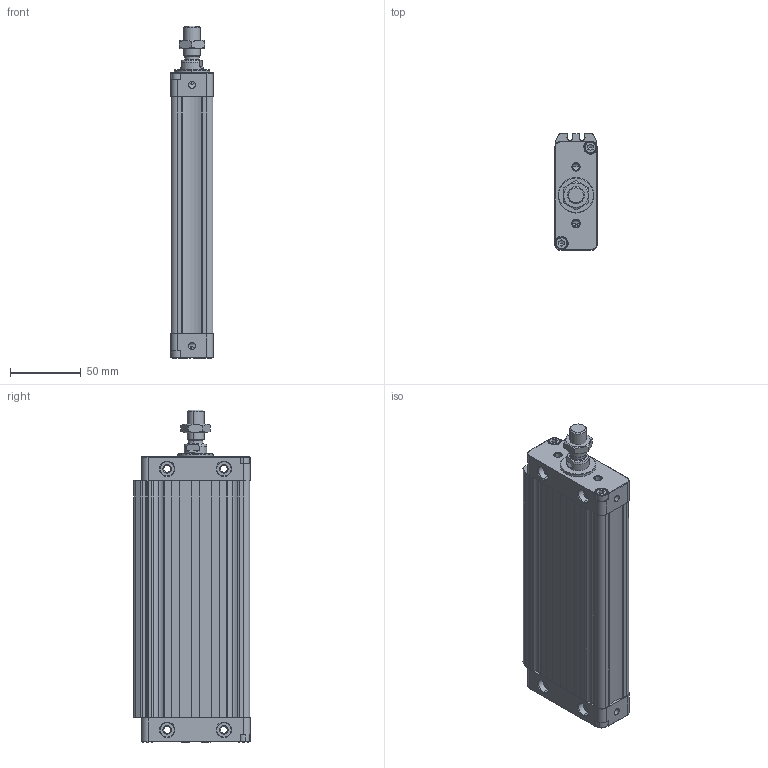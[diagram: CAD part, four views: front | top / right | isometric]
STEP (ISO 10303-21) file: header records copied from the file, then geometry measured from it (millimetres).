
FILE_DESCRIPTION (( 'STEP AP214' ), '1' );
FILE_NAME ('WOC-040-0125-ML (3D).STEP', '2020-05-22T11:28:36', ( '' ), ( '' ), 'SwSTEP 2.0', 'SolidWorks 2016', '' );
FILE_SCHEMA (( 'AUTOMOTIVE_DESIGN' ));
Length unit declared in the file: millimetre
Products named in the file (6): Group1^WOC-040-0125-ML (3D); Group2^WOC-040-0125-ML (3D); WOC-040-0125-ML (3D); Group3^WOC-040-0125-ML (3D); Group5^WOC-040-0125-ML (3D); Group4^WOC-040-0125-ML (3D)
Assembly tree (5 placements, depth 2):
  WOC-040-0125-ML (3D)
    Group1^WOC-040-0125-ML (3D)
    Group2^WOC-040-0125-ML (3D)
    Group3^WOC-040-0125-ML (3D)
    Group4^WOC-040-0125-ML (3D)
    Group5^WOC-040-0125-ML (3D)
Bounding box: 30 x 82 x 234 mm (x, y, z)
Volume: 325108.5 mm3; surface area: 104645.8 mm2
Topology: 11 solids, 11 shells, 680 faces, 1739 edges, 1117 vertices
Faces by surface type: plane 367, cylinder 142, cone 90, bspline 81
Entity records: 26197 total; most frequent: CARTESIAN_POINT 8609, ORIENTED_EDGE 3458, DIRECTION 3125, EDGE_CURVE 1729, VERTEX_POINT 1117, LINE 1115, VECTOR 1115, AXIS2_PLACEMENT_3D 1005
